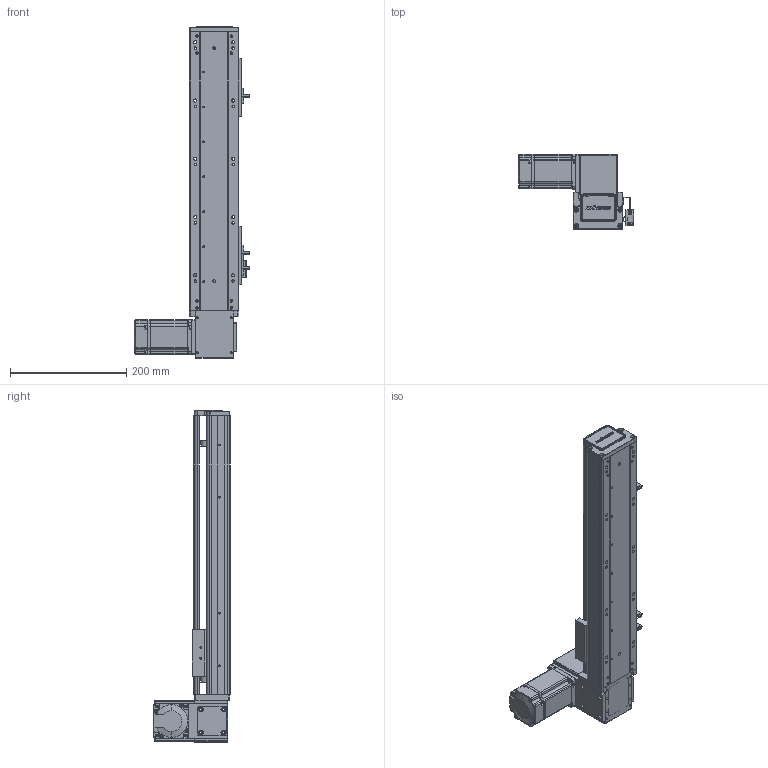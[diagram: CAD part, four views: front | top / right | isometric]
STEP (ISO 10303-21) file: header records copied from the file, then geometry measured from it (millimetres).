
FILE_DESCRIPTION (( 'STEP AP203' ), '1' );
FILE_NAME ('RY80-T-300-UL.SLDASM_300.step', '2021-03-01T02:15:57', ( '盈信电脑' ), ( '东莞市道滘镇水果街19号' ), 'SwSTEP 2.0', 'SolidWorks 2012', '' );
FILE_SCHEMA (( 'CONFIG_CONTROL_DESIGN' ));
Products named in the file (19): RY80-T綴裔啣; RY80-T-300-UL倰第奻裔啣; 672嫖萇羲壽假蚾釱; 覜茼ん672; RY80-T-上下折同步轮盖板; RY80-T肮祭謫奻殏俋欶; RY80-T-300-UL.SLDASM_300; RY80-T-M4蹟翐2; 滅袉蝶18-10; 1; RY80-T翋肮祭謫裔啣; RY80-T萇儂假蚾啣; RY80-T粣創揤踡輸; RY80-T肮祭湍揤輸2; RY80-T肮祭湍揤輸1; RY80-T-翋肮祭謫釱; RY80俋离覜茼え; RY80-T肮祭謫臏賑輸; RY80-T-300-UL倰第菁釱
Assembly tree (24 placements, depth 2):
  RY80-T-300-UL.SLDASM_300
    RY80-T-300-UL倰第菁釱
    RY80-T肮祭謫臏賑輸
    RY80-T-300-UL倰第奻裔啣
    RY80-T綴裔啣
    672嫖萇羲壽假蚾釱  x2
    覜茼ん672  x3
    RY80俋离覜茼え
    RY80-T-翋肮祭謫釱
    RY80-T肮祭湍揤輸1
    RY80-T肮祭湍揤輸2
    RY80-T萇儂假蚾啣
    RY80-T粣創揤踡輸  x2
    滅袉蝶18-10  x2
    RY80-T翋肮祭謫裔啣
    1
    RY80-T肮祭謫奻殏俋欶
    RY80-T-M4蹟翐2  x2
    RY80-T-上下折同步轮盖板
Bounding box: 198.7 x 130.5 x 570 mm (x, y, z)
Volume: 1287100.7 mm3; surface area: 509843.3 mm2
Topology: 24 solids, 24 shells, 2416 faces, 6617 edges, 4295 vertices
Faces by surface type: plane 1332, cylinder 882, cone 146, bspline 56
Entity records: 74285 total; most frequent: CARTESIAN_POINT 17398, ORIENTED_EDGE 11618, DIRECTION 11014, EDGE_CURVE 5809, VERTEX_POINT 3816, VECTOR 3678, LINE 3678, AXIS2_PLACEMENT_3D 3668
